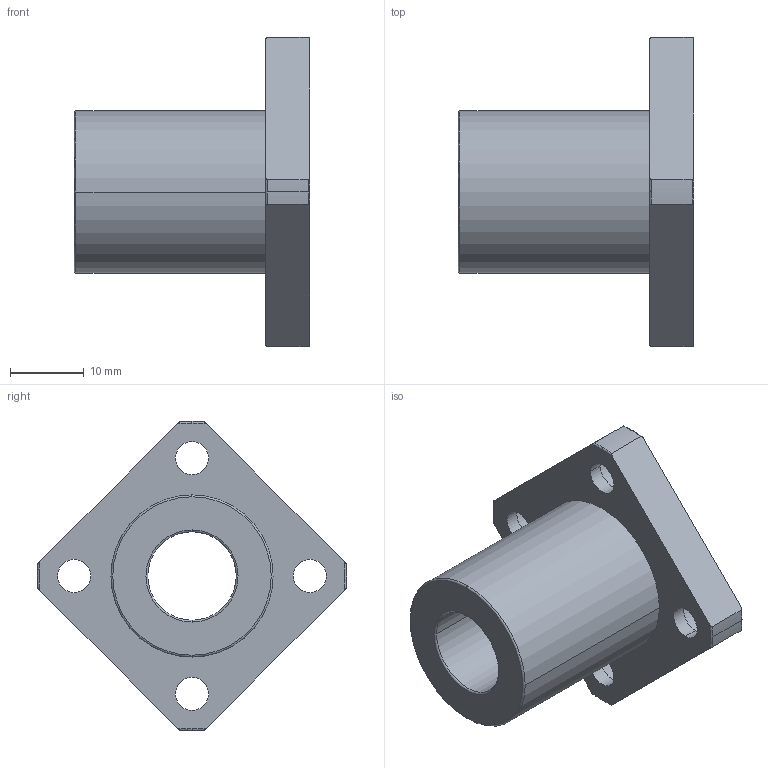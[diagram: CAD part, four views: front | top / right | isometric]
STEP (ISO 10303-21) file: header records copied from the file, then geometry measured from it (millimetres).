
FILE_DESCRIPTION(('FreeCAD Model'),'2;1');
FILE_NAME('Open CASCADE Shape Model','2021-05-03T14:51:54',('Author'),( ''),'Open CASCADE STEP processor 7.5','FreeCAD','Unknown');
FILE_SCHEMA(('AUTOMOTIVE_DESIGN { 1 0 10303 214 1 1 1 1 }'));
Length unit declared in the file: millimetre
Products named in the file (1): linear_lmek12uu
Bounding box: 32 x 42 x 42 mm (x, y, z)
Volume: 11495.3 mm3; surface area: 5885.9 mm2
Topology: 1 solids, 1 shells, 55 faces, 147 edges, 99 vertices
Faces by surface type: cylinder 26, torus 18, plane 11
Entity records: 4837 total; most frequent: CARTESIAN_POINT 1912, DIRECTION 560, ORIENTED_EDGE 294, PCURVE 294, DEFINITIONAL_REPRESENTATION 294, LINE 245, VECTOR 245, AXIS2_PLACEMENT_3D 149
